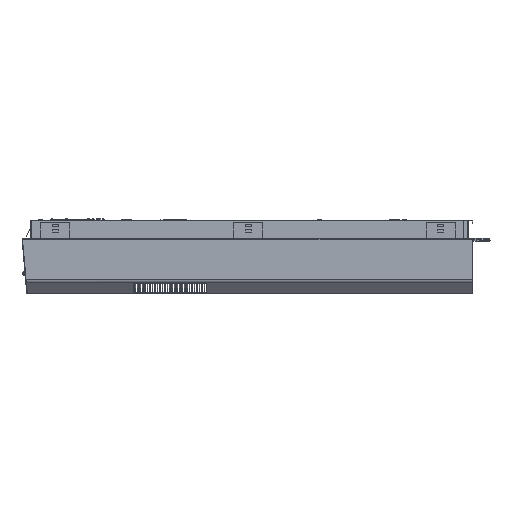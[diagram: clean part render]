
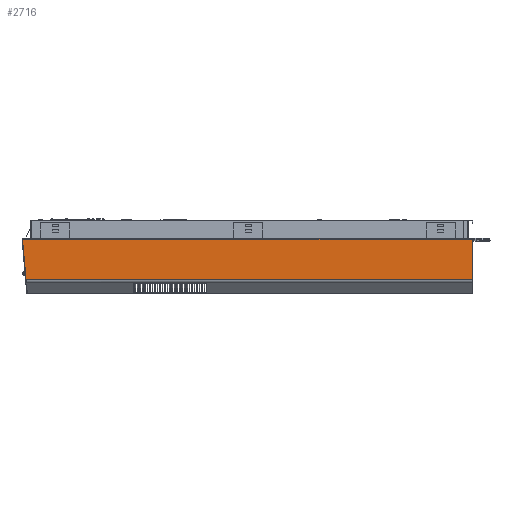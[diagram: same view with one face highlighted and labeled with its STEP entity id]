
A CAD part, left-side view. The second image highlights one B-rep face of the part: STEP entity #2716.
In plain terms, the highlighted planar face has unit normal (-1, 0, 0).
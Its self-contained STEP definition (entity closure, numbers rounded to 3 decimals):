
#658 = CARTESIAN_POINT ( 'NONE',  ( -886.809, 10.57, -167.759 ) ) ;
#659 = DIRECTION ( 'NONE',  ( 0., 0., 1. ) ) ;
#663 = CARTESIAN_POINT ( 'NONE',  ( -886.809, 1604.57, -307.527 ) ) ;
#664 = DIRECTION ( 'NONE',  ( 0., -1., 0. ) ) ;
#675 = CARTESIAN_POINT ( 'NONE',  ( -886.809, 1604.57, -169.759 ) ) ;
#676 = DIRECTION ( 'NONE',  ( 0., 1., 0. ) ) ;
#2716 = ADVANCED_FACE ( 'NONE', ( #20575 ), #13380, .F. ) ;
#3967 = LINE ( 'NONE', #45179, #75287 ) ;
#13377 = DIRECTION ( 'NONE',  ( 0., -1., 0. ) ) ;
#13378 = DIRECTION ( 'NONE',  ( 1., 0., 0. ) ) ;
#13379 = CARTESIAN_POINT ( 'NONE',  ( -886.809, 1604.57, -167.759 ) ) ;
#13380 = PLANE ( 'NONE',  #77681 ) ;
#18042 = LINE ( 'NONE', #675, #53468 ) ;
#18043 = LINE ( 'NONE', #663, #53465 ) ;
#18044 = LINE ( 'NONE', #658, #53458 ) ;
#20575 = FACE_OUTER_BOUND ( 'NONE', #66813, .T. ) ;
#29452 = VERTEX_POINT ( 'NONE', #37810 ) ;
#29453 = VERTEX_POINT ( 'NONE', #37808 ) ;
#29792 = VERTEX_POINT ( 'NONE', #36931 ) ;
#29793 = VERTEX_POINT ( 'NONE', #36929 ) ;
#36929 = CARTESIAN_POINT ( 'NONE',  ( -886.809, 10.57, -307.527 ) ) ;
#36931 = CARTESIAN_POINT ( 'NONE',  ( -886.809, 10.57, -169.759 ) ) ;
#37808 = CARTESIAN_POINT ( 'NONE',  ( -886.809, 1544.399, -307.527 ) ) ;
#37810 = CARTESIAN_POINT ( 'NONE',  ( -886.809, 1556.452, -169.759 ) ) ;
#45179 = CARTESIAN_POINT ( 'NONE',  ( -886.809, 1557.511, -157.647 ) ) ;
#45180 = DIRECTION ( 'NONE',  ( 0., -0.087, -0.996 ) ) ;
#53458 = VECTOR ( 'NONE', #659, 1000. ) ;
#53465 = VECTOR ( 'NONE', #664, 1000. ) ;
#53468 = VECTOR ( 'NONE', #676, 1000. ) ;
#66813 = EDGE_LOOP ( 'NONE', ( #74924, #74923, #74922, #74920 ) ) ;
#74920 = ORIENTED_EDGE ( 'NONE', *, *, #87274, .T. ) ;
#74922 = ORIENTED_EDGE ( 'NONE', *, *, #86187, .T. ) ;
#74923 = ORIENTED_EDGE ( 'NONE', *, *, #86183, .T. ) ;
#74924 = ORIENTED_EDGE ( 'NONE', *, *, #86185, .T. ) ;
#75287 = VECTOR ( 'NONE', #45180, 1000. ) ;
#77681 = AXIS2_PLACEMENT_3D ( 'NONE', #13379, #13378, #13377 ) ;
#86183 = EDGE_CURVE ( 'NONE', #29793, #29792, #18044, .T. ) ;
#86185 = EDGE_CURVE ( 'NONE', #29453, #29793, #18043, .T. ) ;
#86187 = EDGE_CURVE ( 'NONE', #29792, #29452, #18042, .T. ) ;
#87274 = EDGE_CURVE ( 'NONE', #29452, #29453, #3967, .T. ) ;
